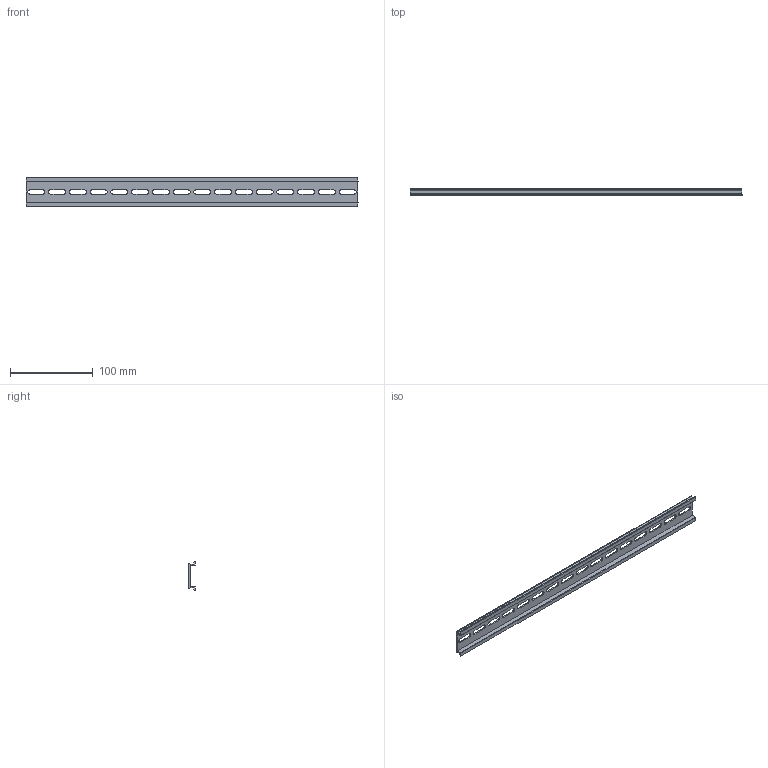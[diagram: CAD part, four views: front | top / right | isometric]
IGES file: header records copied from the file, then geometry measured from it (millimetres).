
Start section: ------------------------------------------------------------------------
Global section: file name: D:\ICADMX\tmp\trans3d_spg\CVICAD02.21224.DIN-RAIL400_7860.igs; native system: spGate; preprocessor: ver12.6.6; author: Unknown; organization: Unknown; date: 200901.142046; units: millimetre
Bounding box: 400 x 7.5 x 35 mm (x, y, z)
Volume: 28239.4 mm3; surface area: 37767 mm2
Topology: 1 solids, 1 shells, 84 faces, 246 edges, 164 vertices
Faces by surface type: bspline 84
